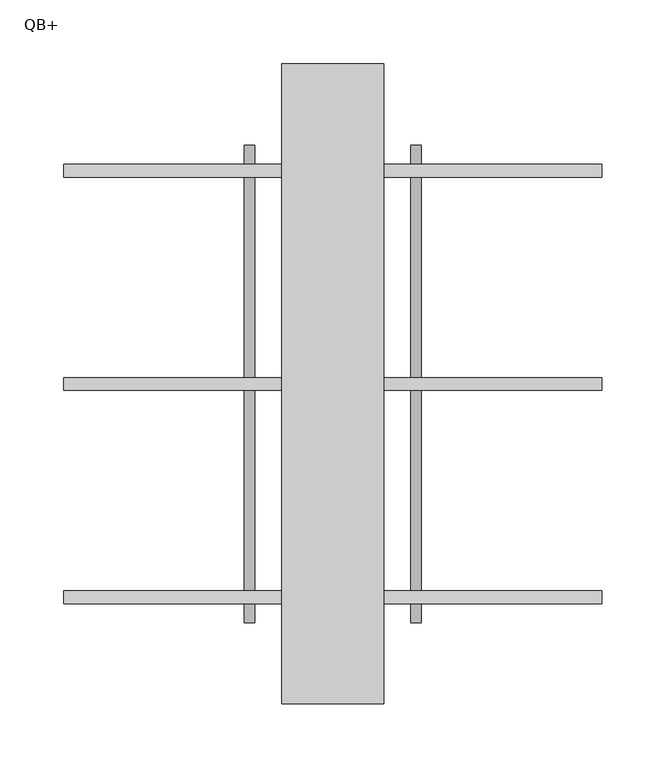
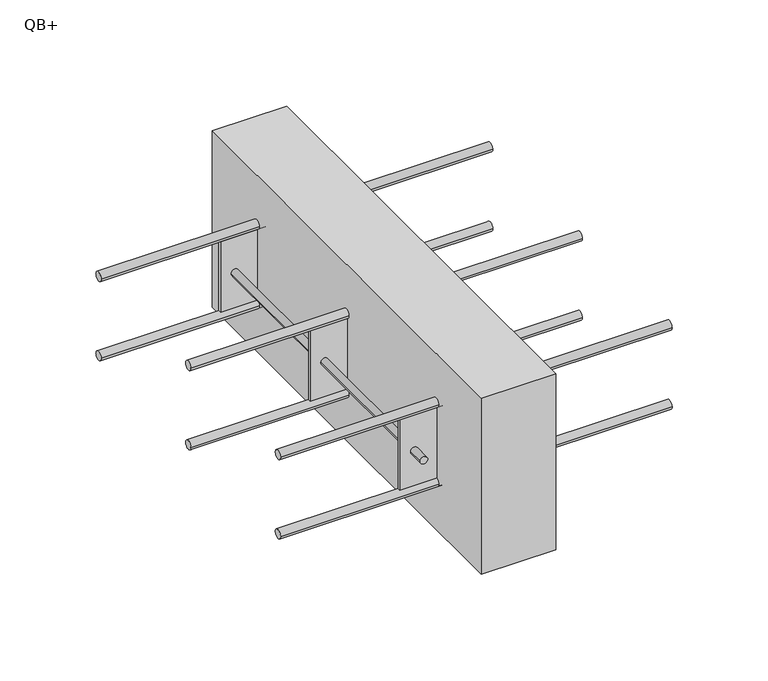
"""IFC4 building model written with IfcOpenShell, lengths in millimetres: proxy geometry, ACINOXplus_Typenreihe_Q : QB+."""

from ifc_helpers import new_model, si_unit, point, frame, frame_2d, origin, place, context, project, spatial, polyline, circle_curve, trimmed, segment, composite_curve, outline, extrude, source, transform, mapped, element, save


def qb_7c3bf237(model_context):
    return source(origin(), model_context, "Body", "SweptSolid", [
        extrude(outline(polyline([(40.0, 250.0), (40.0, -250.0), (-40.0, -250.0), (-40.0, 250.0), (40.0, 250.0)])), frame((0.0, 0.0, -200.0), z_axis=(0.0, 0.0, 1.0), x_axis=(1.0, 0.0, 0.0)), (0.0, 0.0, 1.0), 200.0),
        extrude(outline(polyline([(80.0, 1.5), (80.0, -1.5), (-80.0, -1.5), (-80.0, 1.5), (80.0, 1.5)])), frame((0.0, 0.0, -140.0), z_axis=(0.0, 0.0, 1.0), x_axis=(1.0, 0.0, 0.0)), (0.0, 0.0, 1.0), 80.0),
        extrude(outline(polyline([(80.0, -165.1666667), (80.0, -168.1666667), (-80.0, -168.1666667), (-80.0, -165.1666667), (80.0, -165.1666667)])), frame((0.0, 0.0, -140.0), z_axis=(0.0, 0.0, 1.0), x_axis=(1.0, 0.0, 0.0)), (0.0, 0.0, 1.0), 80.0),
        extrude(outline(polyline([(80.0, 168.1666667), (80.0, 165.1666667), (-80.0, 165.1666667), (-80.0, 168.1666667), (80.0, 168.1666667)])), frame((0.0, 0.0, -140.0), z_axis=(0.0, 0.0, 1.0), x_axis=(1.0, 0.0, 0.0)), (0.0, 0.0, 1.0), 80.0),
        extrude(outline(composite_curve([segment(trimmed(circle_curve(frame_2d((-100.0, -65.0)), 4.0), [point((-100.0, -69.0))], [point((-100.0, -61.0))], False, "CARTESIAN"), True, "CONTINUOUS"), segment(trimmed(circle_curve(frame_2d((-100.0, -65.0)), 4.0), [point((-100.0, -61.0))], [point((-100.0, -69.0))], False, "CARTESIAN"), True, "CONTINUOUS")], self_intersect=False)), frame((0.0, 168.1666667, 0.0), z_axis=(0.0, 1.0, 0.0), x_axis=(0.0, 0.0, 1.0)), (0.0, 0.0, 1.0), 18.5),
        extrude(outline(composite_curve([segment(trimmed(circle_curve(frame_2d((-100.0, -65.0)), 4.0), [point((-100.0, -61.0))], [point((-100.0, -69.0))], False, "CARTESIAN"), True, "CONTINUOUS"), segment(trimmed(circle_curve(frame_2d((-100.0, -65.0)), 4.0), [point((-100.0, -69.0))], [point((-100.0, -61.0))], False, "CARTESIAN"), True, "CONTINUOUS")], self_intersect=False)), frame((0.0, -186.6666667, 0.0), z_axis=(0.0, 1.0, 0.0), x_axis=(0.0, 0.0, 1.0)), (0.0, 0.0, 1.0), 18.5),
        extrude(outline(composite_curve([segment(trimmed(circle_curve(frame_2d((-100.0, -65.0)), 4.0), [point((-100.0, -69.0))], [point((-100.0, -61.0))], False, "CARTESIAN"), True, "CONTINUOUS"), segment(trimmed(circle_curve(frame_2d((-100.0, -65.0)), 4.0), [point((-100.0, -61.0))], [point((-100.0, -69.0))], False, "CARTESIAN"), True, "CONTINUOUS")], self_intersect=False)), frame((0.0, -165.1666667, 0.0), z_axis=(0.0, 1.0, 0.0), x_axis=(0.0, 0.0, 1.0)), (0.0, 0.0, 1.0), 163.6666667),
        extrude(outline(composite_curve([segment(trimmed(circle_curve(frame_2d((-100.0, -65.0)), 4.0), [point((-100.0, -69.0))], [point((-100.0, -61.0))], False, "CARTESIAN"), True, "CONTINUOUS"), segment(trimmed(circle_curve(frame_2d((-100.0, -65.0)), 4.0), [point((-100.0, -61.0))], [point((-100.0, -69.0))], False, "CARTESIAN"), True, "CONTINUOUS")], self_intersect=False)), frame((0.0, 1.5, 0.0), z_axis=(0.0, 1.0, 0.0), x_axis=(0.0, 0.0, 1.0)), (0.0, 0.0, 1.0), 163.6666667),
        extrude(outline(composite_curve([segment(trimmed(circle_curve(frame_2d((-100.0, 65.0)), 4.0), [point((-100.0, 61.0))], [point((-100.0, 69.0))], False, "CARTESIAN"), True, "CONTINUOUS"), segment(trimmed(circle_curve(frame_2d((-100.0, 65.0)), 4.0), [point((-100.0, 69.0))], [point((-100.0, 61.0))], False, "CARTESIAN"), True, "CONTINUOUS")], self_intersect=False)), frame((0.0, 168.1666667, 0.0), z_axis=(0.0, 1.0, 0.0), x_axis=(0.0, 0.0, 1.0)), (0.0, 0.0, 1.0), 18.5),
        extrude(outline(composite_curve([segment(trimmed(circle_curve(frame_2d((-100.0, 65.0)), 4.0), [point((-100.0, 69.0))], [point((-100.0, 61.0))], False, "CARTESIAN"), True, "CONTINUOUS"), segment(trimmed(circle_curve(frame_2d((-100.0, 65.0)), 4.0), [point((-100.0, 61.0))], [point((-100.0, 69.0))], False, "CARTESIAN"), True, "CONTINUOUS")], self_intersect=False)), frame((0.0, -186.6666667, 0.0), z_axis=(0.0, 1.0, 0.0), x_axis=(0.0, 0.0, 1.0)), (0.0, 0.0, 1.0), 18.5),
        extrude(outline(composite_curve([segment(trimmed(circle_curve(frame_2d((-100.0, 65.0)), 4.0), [point((-100.0, 61.0))], [point((-100.0, 69.0))], False, "CARTESIAN"), True, "CONTINUOUS"), segment(trimmed(circle_curve(frame_2d((-100.0, 65.0)), 4.0), [point((-100.0, 69.0))], [point((-100.0, 61.0))], False, "CARTESIAN"), True, "CONTINUOUS")], self_intersect=False)), frame((0.0, -165.1666667, 0.0), z_axis=(0.0, 1.0, 0.0), x_axis=(0.0, 0.0, 1.0)), (0.0, 0.0, 1.0), 163.6666667),
        extrude(outline(composite_curve([segment(trimmed(circle_curve(frame_2d((-100.0, 65.0)), 4.0), [point((-100.0, 61.0))], [point((-100.0, 69.0))], False, "CARTESIAN"), True, "CONTINUOUS"), segment(trimmed(circle_curve(frame_2d((-100.0, 65.0)), 4.0), [point((-100.0, 69.0))], [point((-100.0, 61.0))], False, "CARTESIAN"), True, "CONTINUOUS")], self_intersect=False)), frame((0.0, 1.5, 0.0), z_axis=(0.0, 1.0, 0.0), x_axis=(0.0, 0.0, 1.0)), (0.0, 0.0, 1.0), 163.6666667),
        extrude(outline(composite_curve([segment(trimmed(circle_curve(frame_2d((0.0, -145.0)), 5.0), [point((-5.0, -145.0))], [point((5.0, -145.0))], False, "CARTESIAN"), True, "CONTINUOUS"), segment(trimmed(circle_curve(frame_2d((0.0, -145.0)), 5.0), [point((5.0, -145.0))], [point((-5.0, -145.0))], False, "CARTESIAN"), True, "CONTINUOUS")], self_intersect=False)), frame((-210.0, 0.0, 0.0), z_axis=(1.0, 0.0, 0.0), x_axis=(0.0, 1.0, 0.0)), (0.0, 0.0, 1.0), 420.0),
        extrude(outline(composite_curve([segment(trimmed(circle_curve(frame_2d((166.6666667, -145.0)), 5.0), [point((161.6666667, -145.0))], [point((171.6666667, -145.0))], False, "CARTESIAN"), True, "CONTINUOUS"), segment(trimmed(circle_curve(frame_2d((166.6666667, -145.0)), 5.0), [point((171.6666667, -145.0))], [point((161.6666667, -145.0))], False, "CARTESIAN"), True, "CONTINUOUS")], self_intersect=False)), frame((-210.0, 0.0, 0.0), z_axis=(1.0, 0.0, 0.0), x_axis=(0.0, 1.0, 0.0)), (0.0, 0.0, 1.0), 420.0),
        extrude(outline(composite_curve([segment(trimmed(circle_curve(frame_2d((-166.6666667, -145.0)), 5.0), [point((-171.6666667, -145.0))], [point((-161.6666667, -145.0))], False, "CARTESIAN"), True, "CONTINUOUS"), segment(trimmed(circle_curve(frame_2d((-166.6666667, -145.0)), 5.0), [point((-161.6666667, -145.0))], [point((-171.6666667, -145.0))], False, "CARTESIAN"), True, "CONTINUOUS")], self_intersect=False)), frame((-210.0, 0.0, 0.0), z_axis=(1.0, 0.0, 0.0), x_axis=(0.0, 1.0, 0.0)), (0.0, 0.0, 1.0), 420.0),
        extrude(outline(composite_curve([segment(trimmed(circle_curve(frame_2d((0.0, -55.0)), 5.0), [point((-5.0, -55.0))], [point((5.0, -55.0))], False, "CARTESIAN"), True, "CONTINUOUS"), segment(trimmed(circle_curve(frame_2d((0.0, -55.0)), 5.0), [point((5.0, -55.0))], [point((-5.0, -55.0))], False, "CARTESIAN"), True, "CONTINUOUS")], self_intersect=False)), frame((-210.0, 0.0, 0.0), z_axis=(1.0, 0.0, 0.0), x_axis=(0.0, 1.0, 0.0)), (0.0, 0.0, 1.0), 420.0),
        extrude(outline(composite_curve([segment(trimmed(circle_curve(frame_2d((166.6666667, -55.0)), 5.0), [point((161.6666667, -55.0))], [point((171.6666667, -55.0))], False, "CARTESIAN"), True, "CONTINUOUS"), segment(trimmed(circle_curve(frame_2d((166.6666667, -55.0)), 5.0), [point((171.6666667, -55.0))], [point((161.6666667, -55.0))], False, "CARTESIAN"), True, "CONTINUOUS")], self_intersect=False)), frame((-210.0, 0.0, 0.0), z_axis=(1.0, 0.0, 0.0), x_axis=(0.0, 1.0, 0.0)), (0.0, 0.0, 1.0), 420.0),
        extrude(outline(composite_curve([segment(trimmed(circle_curve(frame_2d((-166.6666667, -55.0)), 5.0), [point((-171.6666667, -55.0))], [point((-161.6666667, -55.0))], False, "CARTESIAN"), True, "CONTINUOUS"), segment(trimmed(circle_curve(frame_2d((-166.6666667, -55.0)), 5.0), [point((-161.6666667, -55.0))], [point((-171.6666667, -55.0))], False, "CARTESIAN"), True, "CONTINUOUS")], self_intersect=False)), frame((-210.0, 0.0, 0.0), z_axis=(1.0, 0.0, 0.0), x_axis=(0.0, 1.0, 0.0)), (0.0, 0.0, 1.0), 420.0),
    ])


if __name__ == "__main__":
    model = new_model("IFC4")
    model_context = context("Model", 3, world=origin())
    ifc_project = project(units=[si_unit("LENGTHUNIT", "METRE", prefix="MILLI")], contexts=[model_context])
    site = spatial("IfcSite", under=ifc_project)
    building = spatial("IfcBuilding", under=site)
    placement = place(None, origin())
    qb_shape = qb_7c3bf237(model_context)
    element("IfcBuildingElementProxy", 1, Name="ACINOXplus_Typenreihe_Q : QB+", ObjectType="ACINOXplus_Typenreihe_Q : QB+", at=placement, inside=building, context=model_context, shape_type="MappedRepresentation", body=[
        mapped(qb_shape, transform((0.0, 0.0, 0.0), x_axis=(1.0, 0.0, 0.0), y_axis=(0.0, 1.0, 0.0), z_axis=(0.0, 0.0, 1.0))),
    ])
    save(model, "model.ifc")
